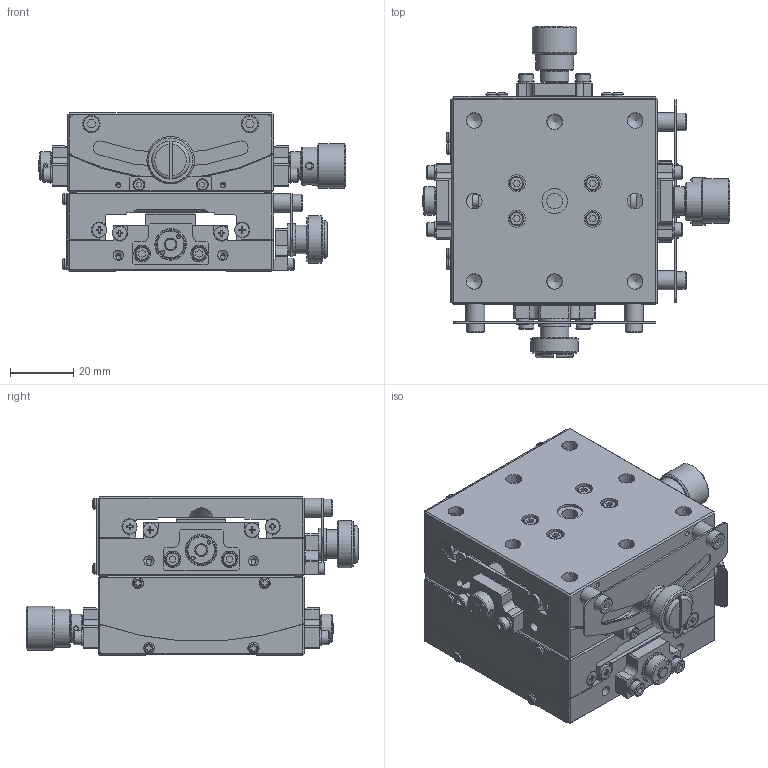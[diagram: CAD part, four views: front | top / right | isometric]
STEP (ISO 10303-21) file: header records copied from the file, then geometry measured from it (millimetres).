
FILE_DESCRIPTION((''),'2;1');
FILE_NAME('Y:\3DDATA\2_OpticalHard\02_海外製品\1_Stags\GOHT\□65\GOHT-65B50BRUU\GOHT-65B50BRUU.stp','2014-05-23T09:40:10',('m.kadoya'),(''),'Autodesk Inventor 2008','Autodesk Inventor 2008','');
FILE_SCHEMA(('AUTOMOTIVE_DESIGN { 1 0 10303 214 1 1 1 1 }'));
Length unit declared in the file: millimetre
Products named in the file (4): GOHT65B50BRUU-M02-08001-ST01; GOHT65A75BRUU-M02-08001-S09; GOHT65B50BRUU-M02-08001-S16; GOHT65A50BUU-M02-08001-S08
Assembly tree (3 placements, depth 2):
  GOHT65B50BRUU-M02-08001-ST01
    GOHT65A75BRUU-M02-08001-S09
    GOHT65B50BRUU-M02-08001-S16
    GOHT65A50BUU-M02-08001-S08
Bounding box: 97.1 x 104.8 x 50 mm (x, y, z)
Volume: 177223.7 mm3; surface area: 81750.9 mm2
Topology: 3 solids, 94 shells, 2224 faces, 5498 edges, 3577 vertices
Faces by surface type: plane 1225, bspline 432, cylinder 362, cone 131, torus 50, sphere 24
Full cylindrical faces by diameter (mm): 1.5 x16, 2 x12, 2.459 x4, 2.5 x16, 3 x6, 3.8 x4, 4 x13, 4.2 x4, 4.5 x32, 5.2 x2, 5.5 x4, 5.8 x4, 5.92 x16, 6 x4, 6.35 x4, 6.9 x4, 7 x8, 8 x5, 8.08 x8, 8.484 x8, 9 x6, 9.52 x4, 10 x4, 12 x10, 14 x2, 15 x2
Entity records: 70352 total; most frequent: CARTESIAN_POINT 23412, DIRECTION 9374, ORIENTED_EDGE 8808, EDGE_CURVE 4404, AXIS2_PLACEMENT_3D 3517, EDGE_LOOP 3268, VERTEX_POINT 3190, VECTOR 2340
